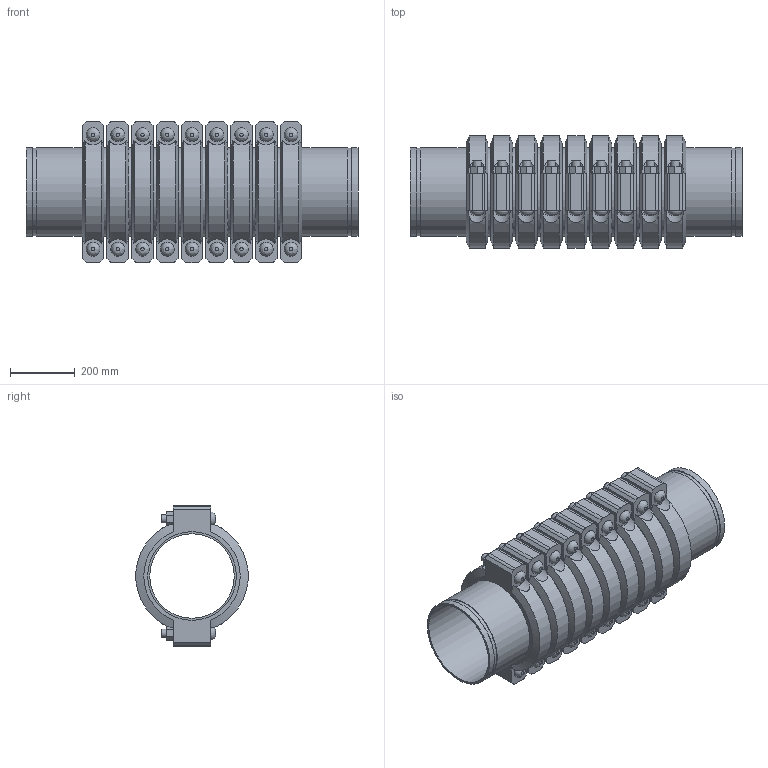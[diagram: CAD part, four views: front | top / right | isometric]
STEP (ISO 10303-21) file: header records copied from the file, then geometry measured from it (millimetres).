
FILE_DESCRIPTION(/* description */ ('VIC SS EXPANSION JOINT 9 COUPLINGS EXPANDED STYLE 155P (OGS) (POTABLE WATER) ','CAx-IF Rec.Pracs.---Representation and Presentation of Product Manufacturing Information (PMI)---4.0---2014-10-13'),/* implementation_level */ '2;1');
FILE_NAME(/* name */ 'C:\Users\kkamble\AppData\Roaming\Autodesk\ApplicationPlugins\Victaulic.Temp\A474\Victaulic_SS_Expansion Joint_Expanded_9 Couplings_Style 155P (OGS)-Potable Water_9 Coup_Expd_10 (250).stp',/* time_stamp */ '2021-07-16T16:58:11+05:00',/* author */ ('kkamble'),/* organization */ ('Victaulic'),/* preprocessor_version */ 'ST-DEVELOPER v17.2',/* originating_system */ 'Autodesk Inventor 2019',/* authorisation */ '');
FILE_SCHEMA (('AP242_MANAGED_MODEL_BASED_3D_ENGINEERING_MIM_LF { 1 0 10303 442 1 1 4 }'));
Length unit declared in the file: inch
Products named in the file (4): 155P-10.0; Nipple-10.0; Nipple-10.0_1; 077-10.0
Assembly tree (19 placements, depth 2):
  155P-10.0
    Nipple-10.0  x2
    Nipple-10.0_1  x8
    077-10.0  x9
Bounding box: 1022.35 x 344.9 x 435.1 mm (x, y, z)
Volume: 31173536.5 mm3; surface area: 4369026.2 mm2
Topology: 19 solids, 37 shells, 669 faces, 1605 edges, 1122 vertices
Faces by surface type: plane 384, cylinder 231, cone 36, bspline 18
Full cylindrical faces by diameter (mm): 25.4 x36, 27.432 x18, 260.35 x10, 264.16 x9, 268.275 x20, 273.05 x48
Entity records: 3128 total; most frequent: CARTESIAN_POINT 683, DIRECTION 493, ORIENTED_EDGE 410, EDGE_CURVE 205, AXIS2_PLACEMENT_3D 202, VERTEX_POINT 146, EDGE_LOOP 111, CIRCLE 96
